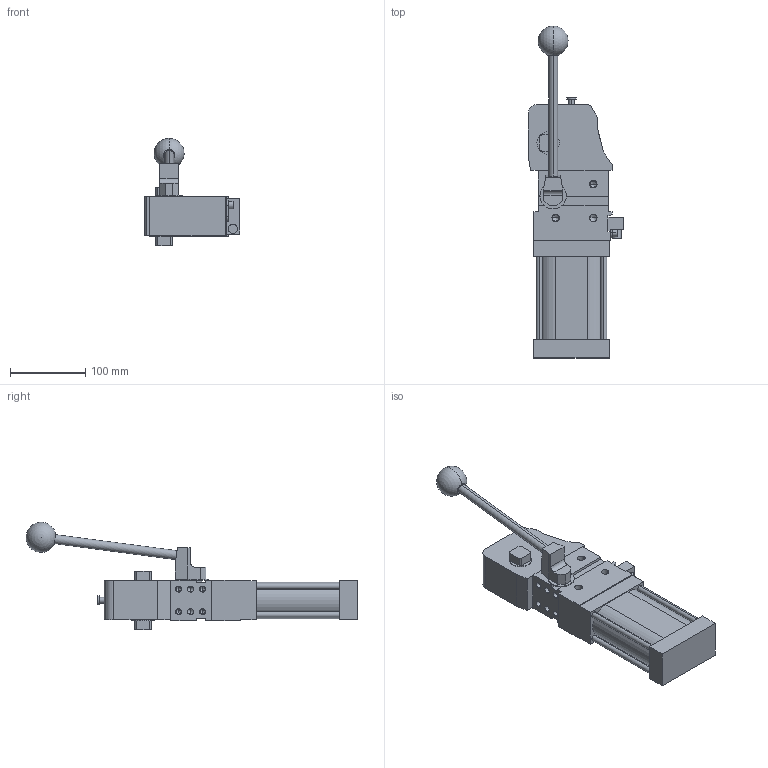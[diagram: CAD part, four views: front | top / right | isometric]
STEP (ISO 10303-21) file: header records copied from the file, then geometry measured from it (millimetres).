
FILE_DESCRIPTION (( 'STEP AP214' ), '1' );
FILE_NAME ('cplm63laxxxi1g_135.STEP', '2023-01-27T10:45:59', ( '' ), ( '' ), 'SwSTEP 2.0', 'SolidWorks 2022', '' );
FILE_SCHEMA (( 'AUTOMOTIVE_DESIGN' ));
Length unit declared in the file: millimetre
Products named in the file (5): comando_manuale_cplm_63; blocchetto_VEP_0; manovella_cpl_63; meccanica_cplm_63; cplm63laxxxi1g_135
Assembly tree (4 placements, depth 2):
  cplm63laxxxi1g_135
    meccanica_cplm_63
    blocchetto_VEP_0
    manovella_cpl_63
    comando_manuale_cplm_63
Bounding box: 127 x 442.23 x 143 mm (x, y, z)
Volume: 1702543.8 mm3; surface area: 165041.4 mm2
Topology: 4 solids, 4 shells, 326 faces, 822 edges, 507 vertices
Faces by surface type: plane 145, cylinder 129, cone 50, sphere 2
Entity records: 10899 total; most frequent: DIRECTION 1707, CARTESIAN_POINT 1608, ORIENTED_EDGE 1542, EDGE_CURVE 771, AXIS2_PLACEMENT_3D 603, VERTEX_POINT 504, VECTOR 501, LINE 501
